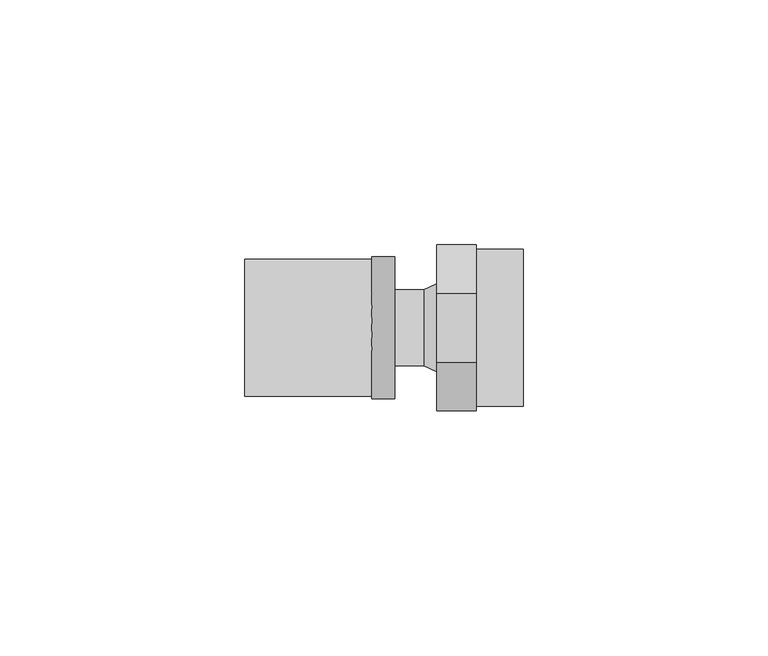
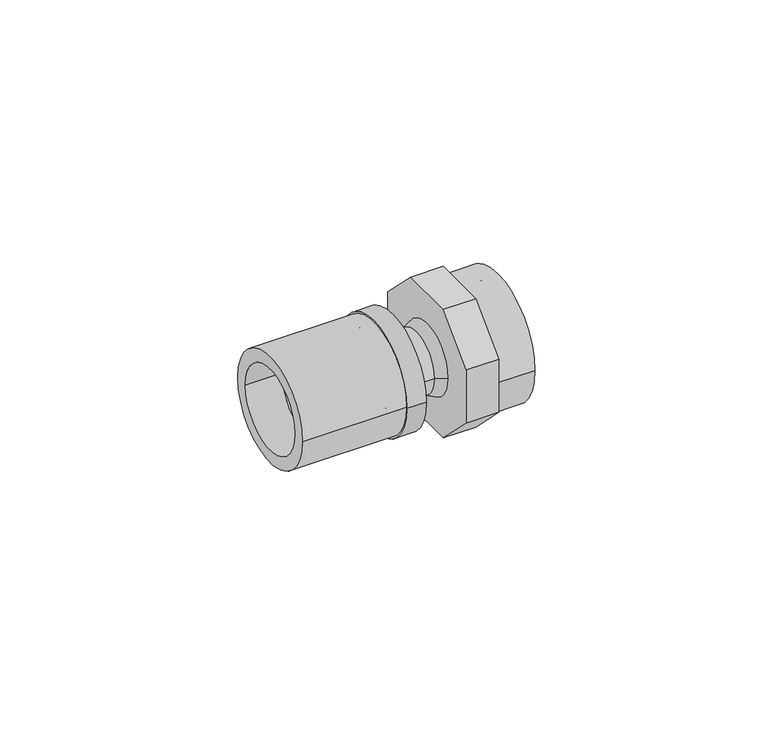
"""IFC4 building model written with IfcOpenShell, lengths in millimetres: pipe fitting geometry, FASTLOC_Adapter_LX, with internal thread : FSL A internal CZ."""

from ifc_helpers import new_model, si_unit, point, frame, origin, origin_2d, place, context, project, spatial, polyline, circle_curve, trimmed, segment, composite_curve, outline, extrude, source, transform, mapped, element, save
from ifc_brep_helpers import plane_surface, cylinder_surface, revolved_surface, advanced_brep


def pipe_fitting_f8d70d0e(model_context):
    return source(origin(), model_context, "Body", "SolidModel", [
        extrude(outline(composite_curve([segment(trimmed(circle_curve(origin_2d(), 14.0), [point((14.0, 0.0))], [point((-14.0, 0.0))], False, "CARTESIAN"), True, "CONTINUOUS"), segment(trimmed(circle_curve(origin_2d(), 14.0), [point((-14.0, 0.0))], [point((14.0, 0.0))], False, "CARTESIAN"), True, "CONTINUOUS")], self_intersect=False), holes=[composite_curve([segment(trimmed(circle_curve(origin_2d(), 10.7), [point((10.7, 0.0))], [point((-10.7, 0.0))], True, "CARTESIAN"), True, "CONTINUOUS"), segment(trimmed(circle_curve(origin_2d(), 10.7), [point((-10.7, 0.0))], [point((10.7, 0.0))], True, "CARTESIAN"), True, "CONTINUOUS")], self_intersect=False)]), frame((-39.3, 0.0, 0.0), z_axis=(1.0, 0.0, 0.0), x_axis=(0.0, 1.0, 0.0)), (0.0, 0.0, 1.0), 26.0),
        advanced_brep(
        [(-13.3, -14.5, 0.0), (-13.3, 14.5, 0.0), (-8.6, 14.5, 0.0), (-8.6, -14.5, 0.0), (-30.3, -11.85, 0.0), (-30.3, 11.85, 0.0), (-13.3, 11.85, 0.0), (-13.3, -11.85, 0.0), (-8.6, -10.15, 0.0), (-8.6, 10.15, 0.0), (-30.3, 10.15, 0.0), (-30.3, -10.15, 0.0)],
        [
            (0, 1, circle_curve(frame((-13.3, 0.0, 0.0), z_axis=(1.0, 0.0, 0.0), x_axis=(0.0, 1.0, 0.0)), 14.5)),
            (1, 2),
            (2, 3, circle_curve(frame((-8.6, 0.0, 0.0), z_axis=(-1.0, 0.0, 0.0), x_axis=(0.0, 1.0, 0.0)), 14.5)),
            (3, 0),
            (4, 5, circle_curve(frame((-30.3, 0.0, 0.0), z_axis=(1.0, 0.0, 0.0), x_axis=(0.0, 1.0, 0.0)), 11.85)),
            (5, 6),
            (6, 7, circle_curve(frame((-13.3, 0.0, 0.0), z_axis=(-1.0, 0.0, 0.0), x_axis=(0.0, 1.0, 0.0)), 11.85)),
            (7, 4),
            (8, 9, circle_curve(frame((-8.6, 0.0, 0.0), z_axis=(1.0, 0.0, 0.0), x_axis=(0.0, 1.0, 0.0)), 10.15)),
            (9, 10),
            (10, 11, circle_curve(frame((-30.3, 0.0, 0.0), z_axis=(-1.0, 0.0, 0.0), x_axis=(0.0, 1.0, 0.0)), 10.15)),
            (11, 8),
            (1, 0, circle_curve(frame((-13.3, 0.0, 0.0), z_axis=(1.0, 0.0, 0.0), x_axis=(0.0, -1.0, 0.0)), 14.5)),
            (3, 2, circle_curve(frame((-8.6, 0.0, 0.0), z_axis=(-1.0, 0.0, 0.0), x_axis=(0.0, -1.0, 0.0)), 14.5)),
            (6, 7, circle_curve(frame((-13.3, 0.0, 0.0), z_axis=(1.0, 0.0, 0.0), x_axis=(0.0, -1.0, 0.0)), 11.85)),
            (5, 4, circle_curve(frame((-30.3, 0.0, 0.0), z_axis=(1.0, 0.0, 0.0), x_axis=(0.0, -1.0, 0.0)), 11.85)),
            (10, 11, circle_curve(frame((-30.3, 0.0, 0.0), z_axis=(1.0, 0.0, 0.0), x_axis=(0.0, -1.0, 0.0)), 10.15)),
            (9, 8, circle_curve(frame((-8.6, 0.0, 0.0), z_axis=(1.0, 0.0, 0.0), x_axis=(0.0, -1.0, 0.0)), 10.15)),
        ],
        [
            cylinder_surface(frame((-8.6, 0.0, 0.0), z_axis=(-1.0, 0.0, 0.0), x_axis=(0.0, 1.0, 0.0)), 14.5),
            cylinder_surface(frame((-8.6, 0.0, 0.0), z_axis=(-1.0, 0.0, 0.0), x_axis=(0.0, 1.0, 0.0)), 11.85),
            revolved_surface(polyline([(-30.300000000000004, 10.15, 0.0), (-8.6, 10.15, 0.0)]), (-8.6, 0.0, 0.0), (-1.0, 0.0, 0.0)),
            cylinder_surface(frame((-8.6, 0.0, 0.0), z_axis=(-1.0, 0.0, 0.0), x_axis=(0.0, -1.0, 0.0)), 14.5),
            plane_surface(frame((-13.3, 0.0, 0.0), z_axis=(-1.0, 0.0, 0.0), x_axis=(0.0, -1.0, 0.0))),
            cylinder_surface(frame((-8.6, 0.0, 0.0), z_axis=(-1.0, 0.0, 0.0), x_axis=(0.0, -1.0, 0.0)), 11.85),
            plane_surface(frame((-30.3, 0.0, 0.0), z_axis=(-1.0, 0.0, 0.0), x_axis=(0.0, -1.0, 0.0))),
            revolved_surface(polyline([(-30.300000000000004, -10.15, 0.0), (-8.6, -10.15, 0.0)]), (-8.6, 0.0, 0.0), (-1.0, 0.0, 0.0)),
            plane_surface(frame((-8.6, 0.0, 0.0), z_axis=(1.0, 0.0, 0.0), x_axis=(0.0, -1.0, 0.0))),
        ],
        [
            (0, [[1, 2, 3, 4]]),
            (1, [[5, 6, 7, 8]]),
            (2, [[9, 10, 11, 12]]),
            (3, [[13, -4, 14, -2]]),
            (4, [[-13, -1], [15, -7]]),
            (5, [[16, -8, -15, -6]]),
            (6, [[-16, -5], [17, -11]]),
            (7, [[18, -12, -17, -10]]),
            (8, [[-14, -3], [-18, -9]]),
        ],
    ),
        advanced_brep(
        [(-13.3, 7.75, 0.0), (-13.3, -7.75, 0.0), (-30.7, -7.75, 0.0), (-30.7, 7.75, 0.0), (-10.6, 9.0, 0.0), (-10.6, -9.0, 0.0), (-13.3, -9.0, 0.0), (-13.3, 9.0, 0.0), (-2.7, 7.75, 0.0), (-2.7, -7.75, 0.0), (-10.6, -7.75, 0.0), (-10.6, 7.75, 0.0), (0.0, 9.0, 0.0), (0.0, -9.0, 0.0), (-30.7, 5.75, 0.0), (-30.7, -5.75, 0.0), (0.0, -5.75, 0.0), (0.0, 5.75, 0.0)],
        [
            (0, 1, circle_curve(frame((-13.3, 0.0, 0.0), z_axis=(-1.0, 0.0, 0.0), x_axis=(0.0, -1.0, 0.0)), 7.75)),
            (1, 2),
            (2, 3, circle_curve(frame((-30.7, 0.0, 0.0), z_axis=(1.0, 0.0, 0.0), x_axis=(0.0, -1.0, 0.0)), 7.75)),
            (3, 0),
            (4, 5, circle_curve(frame((-10.6, 0.0, 0.0), z_axis=(-1.0, 0.0, 0.0), x_axis=(0.0, -1.0, 0.0)), 9.0)),
            (5, 6),
            (6, 7, circle_curve(frame((-13.3, 0.0, 0.0), z_axis=(1.0, 0.0, 0.0), x_axis=(0.0, -1.0, 0.0)), 9.0)),
            (7, 4),
            (8, 9, circle_curve(frame((-2.7, 0.0, 0.0), z_axis=(-1.0, 0.0, 0.0), x_axis=(0.0, -1.0, 0.0)), 7.75)),
            (9, 10),
            (10, 11, circle_curve(frame((-10.6, 0.0, 0.0), z_axis=(1.0, 0.0, 0.0), x_axis=(0.0, -1.0, 0.0)), 7.75)),
            (11, 8),
            (12, 13, circle_curve(frame((0.0, 0.0, 0.0), z_axis=(-1.0, 0.0, 0.0), x_axis=(0.0, -1.0, 0.0)), 9.0)),
            (13, 9),
            (8, 12),
            (14, 15, circle_curve(frame((-30.7, 0.0, 0.0), z_axis=(-1.0, 0.0, 0.0), x_axis=(0.0, -1.0, 0.0)), 5.75)),
            (15, 16),
            (16, 17, circle_curve(frame((0.0, 0.0, 0.0), z_axis=(1.0, 0.0, 0.0), x_axis=(0.0, -1.0, 0.0)), 5.75)),
            (17, 14),
            (2, 3, circle_curve(frame((-30.7, 0.0, 0.0), z_axis=(-1.0, 0.0, 0.0), x_axis=(0.0, 1.0, 0.0)), 7.75)),
            (14, 15, circle_curve(frame((-30.7, 0.0, 0.0), z_axis=(1.0, 0.0, 0.0), x_axis=(0.0, 1.0, 0.0)), 5.75)),
            (1, 0, circle_curve(frame((-13.3, 0.0, 0.0), z_axis=(-1.0, 0.0, 0.0), x_axis=(0.0, 1.0, 0.0)), 7.75)),
            (6, 7, circle_curve(frame((-13.3, 0.0, 0.0), z_axis=(-1.0, 0.0, 0.0), x_axis=(0.0, 1.0, 0.0)), 9.0)),
            (5, 4, circle_curve(frame((-10.6, 0.0, 0.0), z_axis=(-1.0, 0.0, 0.0), x_axis=(0.0, 1.0, 0.0)), 9.0)),
            (10, 11, circle_curve(frame((-10.6, 0.0, 0.0), z_axis=(-1.0, 0.0, 0.0), x_axis=(0.0, 1.0, 0.0)), 7.75)),
            (9, 8, circle_curve(frame((-2.7, 0.0, 0.0), z_axis=(-1.0, 0.0, 0.0), x_axis=(0.0, 1.0, 0.0)), 7.75)),
            (13, 12, circle_curve(frame((0.0, 0.0, 0.0), z_axis=(-1.0, 0.0, 0.0), x_axis=(0.0, 1.0, 0.0)), 9.0)),
            (16, 17, circle_curve(frame((0.0, 0.0, 0.0), z_axis=(-1.0, 0.0, 0.0), x_axis=(0.0, 1.0, 0.0)), 5.75)),
        ],
        [
            cylinder_surface(frame((0.0, 0.0, 0.0), z_axis=(1.0, 0.0, 0.0), x_axis=(0.0, -1.0, 0.0)), 7.75),
            cylinder_surface(frame((0.0, 0.0, 0.0), z_axis=(1.0, 0.0, 0.0), x_axis=(0.0, -1.0, 0.0)), 9.0),
            revolved_surface(polyline([(-2.7, -7.75, 0.0), (0.0, -9.0, 0.0)]), (0.0, 0.0, 0.0), (1.0, 0.0, 0.0)),
            revolved_surface(polyline([(0.0, -5.75, 0.0), (-30.7, -5.75, 0.0)]), (0.0, 0.0, 0.0), (1.0, 0.0, 0.0)),
            plane_surface(frame((-30.7, 0.0, 0.0), z_axis=(-1.0, 0.0, 0.0), x_axis=(0.0, 1.0, 0.0))),
            cylinder_surface(frame((0.0, 0.0, 0.0), z_axis=(1.0, 0.0, 0.0), x_axis=(0.0, 1.0, 0.0)), 7.75),
            plane_surface(frame((-13.3, 0.0, 0.0), z_axis=(-1.0, 0.0, 0.0), x_axis=(0.0, 1.0, 0.0))),
            cylinder_surface(frame((0.0, 0.0, 0.0), z_axis=(1.0, 0.0, 0.0), x_axis=(0.0, 1.0, 0.0)), 9.0),
            plane_surface(frame((-10.6, 0.0, 0.0), z_axis=(1.0, 0.0, 0.0), x_axis=(0.0, 1.0, 0.0))),
            revolved_surface(polyline([(-2.7, 7.75, 0.0), (0.0, 9.0, 0.0)]), (0.0, 0.0, 0.0), (1.0, 0.0, 0.0)),
            plane_surface(frame((0.0, 0.0, 0.0), z_axis=(1.0, 0.0, 0.0), x_axis=(0.0, 1.0, 0.0))),
            revolved_surface(polyline([(0.0, 5.75, 0.0), (-30.7, 5.75, 0.0)]), (0.0, 0.0, 0.0), (1.0, 0.0, 0.0)),
        ],
        [
            (0, [[1, 2, 3, 4]]),
            (1, [[5, 6, 7, 8]]),
            (0, [[9, 10, 11, 12]]),
            (2, [[13, 14, -9, 15]]),
            (3, [[16, 17, 18, 19]]),
            (4, [[20, -3], [21, -16]]),
            (5, [[22, -4, -20, -2]]),
            (6, [[23, -7], [-22, -1]]),
            (7, [[24, -8, -23, -6]]),
            (8, [[-24, -5], [25, -11]]),
            (5, [[26, -12, -25, -10]]),
            (9, [[27, -15, -26, -14]]),
            (10, [[-27, -13], [28, -18]]),
            (11, [[-21, -19, -28, -17]]),
        ],
    ),
        extrude(outline(polyline([(-7.0416306, -17.0), (-17.0, -7.0416306), (-17.0, 7.0416306), (-7.0416306, 17.0), (7.0416306, 17.0), (17.0, 7.0416306), (17.0, -7.0416306), (7.0416306, -17.0), (-7.0416306, -17.0)]), holes=[composite_curve([segment(trimmed(circle_curve(origin_2d(), 5.75), [point((-5.75, 0.0))], [point((5.75, 0.0))], True, "CARTESIAN"), True, "CONTINUOUS"), segment(trimmed(circle_curve(origin_2d(), 5.75), [point((5.75, 0.0))], [point((-5.75, 0.0))], True, "CARTESIAN"), True, "CONTINUOUS")], self_intersect=False)]), frame((0.0, 0.0, 0.0), z_axis=(1.0, 0.0, 0.0), x_axis=(0.0, 1.0, 0.0)), (0.0, 0.0, 1.0), 8.1),
        extrude(outline(composite_curve([segment(trimmed(circle_curve(origin_2d(), 16.0), [point((-16.0, 0.0))], [point((16.0, 0.0))], False, "CARTESIAN"), True, "CONTINUOUS"), segment(trimmed(circle_curve(origin_2d(), 16.0), [point((16.0, 0.0))], [point((-16.0, 0.0))], False, "CARTESIAN"), True, "CONTINUOUS")], self_intersect=False), holes=[composite_curve([segment(trimmed(circle_curve(origin_2d(), 12.05), [point((-12.05, 0.0))], [point((12.05, 0.0))], True, "CARTESIAN"), True, "CONTINUOUS"), segment(trimmed(circle_curve(origin_2d(), 12.05), [point((12.05, 0.0))], [point((-12.05, 0.0))], True, "CARTESIAN"), True, "CONTINUOUS")], self_intersect=False)]), frame((8.1, 0.0, 0.0), z_axis=(1.0, 0.0, 0.0), x_axis=(0.0, 1.0, 0.0)), (0.0, 0.0, 1.0), 9.6),
    ])


if __name__ == "__main__":
    model = new_model("IFC4")
    model_context = context("Model", 3, world=origin())
    ifc_project = project(units=[si_unit("LENGTHUNIT", "METRE", prefix="MILLI")], contexts=[model_context])
    site = spatial("IfcSite", under=ifc_project)
    building = spatial("IfcBuilding", under=site)
    placement = place(None, origin())
    pipe_fitting_shape = pipe_fitting_f8d70d0e(model_context)
    element("IfcPipeFitting", 1, ObjectType="FASTLOC_Adapter_LX, with internal thread : FSL A internal CZ", at=placement, inside=building, context=model_context, shape_type="MappedRepresentation", body=[
        mapped(pipe_fitting_shape, transform((0.0, 0.0, 0.0), x_axis=(1.0, 0.0, 0.0), y_axis=(0.0, 1.0, 0.0), z_axis=(0.0, 0.0, 1.0))),
    ])
    save(model, "model.ifc")
